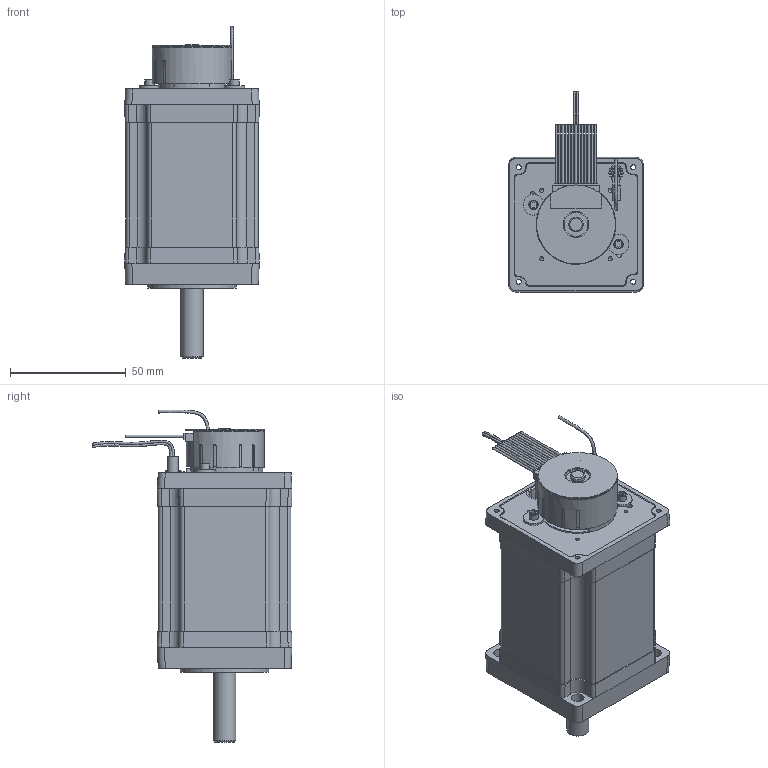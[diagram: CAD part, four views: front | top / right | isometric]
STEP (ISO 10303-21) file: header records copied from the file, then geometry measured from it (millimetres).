
FILE_DESCRIPTION((''),'2;1');
FILE_NAME('C:\CAD_work\Dummy_Modeling_Project_02-12-05\3D MODELS\BE232_FO.stp','2005-12-20T15:27:37',('jevans'),(''),'Autodesk Inventor 10','Autodesk Inventor 10','');
FILE_SCHEMA(('AUTOMOTIVE_DESIGN { 1 0 10303 214 1 1 1 1 }'));
Length unit declared in the file: inch
Products named in the file (1): BE23_FO
Bounding box: 57.95 x 86.08 x 143.11 mm (x, y, z)
Volume: 261096.6 mm3; surface area: 43486.3 mm2
Topology: 7 solids, 7 shells, 496 faces, 1225 edges, 790 vertices
Faces by surface type: plane 281, cylinder 150, bspline 47, cone 12, torus 6
Full cylindrical faces by diameter (mm): 1.016 x13, 1.27 x2, 2.921 x1, 3.02 x1, 3.175 x2, 3.429 x1, 4.013 x3, 4.567 x1, 6.35 x2, 8.89 x2, 9.52 x1, 9.525 x1, 10.16 x1, 10.312 x1, 10.668 x1, 11.176 x1, 21.59 x1, 24.13 x1, 25.403 x1, 26 x1, 27.076 x1, 31.75 x3, 33.02 x2, 34.036 x1, 38.1 x1, 41.732 x1, 47.015 x1
Entity records: 17363 total; most frequent: CARTESIAN_POINT 5979, DIRECTION 2370, ORIENTED_EDGE 2214, EDGE_CURVE 1107, AXIS2_PLACEMENT_3D 855, VERTEX_POINT 760, VECTOR 660, LINE 660
